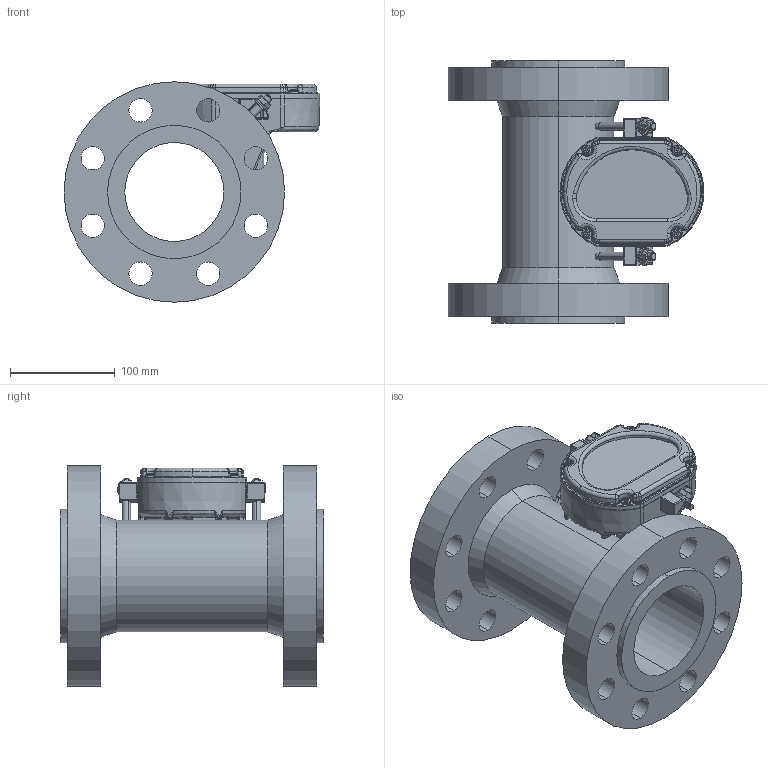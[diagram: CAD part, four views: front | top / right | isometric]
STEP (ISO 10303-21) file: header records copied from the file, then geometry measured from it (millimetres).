
FILE_DESCRIPTION (( 'STEP AP214' ), '1' );
FILE_NAME ('3809G-A-15-H-2-A-0.STEP', '2025-08-12T19:02:12', ( '' ), ( '' ), 'SwSTEP 2.0', 'SolidWorks 2023', '' );
FILE_SCHEMA (( 'AUTOMOTIVE_DESIGN' ));
Length unit declared in the file: millimetre
Products named in the file (11): GP Housing Assembly.sldasm-Part-5; GP Housing Assembly.sldasm-Part-7; GP Housing Assembly.sldasm-Part-1; GP Housing Assembly.sldasm-Part-6; GP Housing Assembly.sldasm-Part-3; GP Housing Assembly; 854z182_C-stud_ threaded; GP Housing Assembly.sldasm-Part-2; 029P152; 3809G-A-15-H-2-A-0; GP Housing Assembly.sldasm-Part-4
Assembly tree (17 placements, depth 3):
  3809G-A-15-H-2-A-0
    029P152
    GP Housing Assembly
      GP Housing Assembly.sldasm-Part-1  x2
      GP Housing Assembly.sldasm-Part-2
      GP Housing Assembly.sldasm-Part-3  x2
      GP Housing Assembly.sldasm-Part-4  x2
      GP Housing Assembly.sldasm-Part-5
      GP Housing Assembly.sldasm-Part-6
      GP Housing Assembly.sldasm-Part-7  x4
    854z182_C-stud_ threaded  x2
Bounding box: 243.72 x 250 x 210 mm (x, y, z)
Volume: 2492802.8 mm3; surface area: 413896.5 mm2
Topology: 16 solids, 17 shells, 1237 faces, 3060 edges, 1845 vertices
Faces by surface type: cylinder 496, plane 196, torus 183, cone 177, bspline 175, sphere 10
Entity records: 34508 total; most frequent: CARTESIAN_POINT 14204, DIRECTION 4255, ORIENTED_EDGE 4226, EDGE_CURVE 2113, AXIS2_PLACEMENT_3D 1811, VERTEX_POINT 1255, CIRCLE 1058, EDGE_LOOP 974
